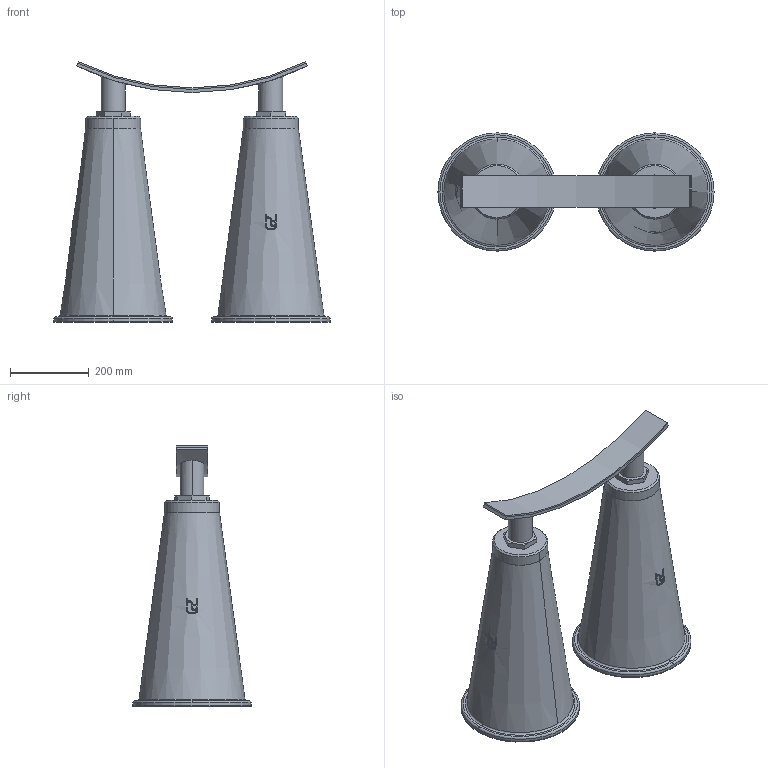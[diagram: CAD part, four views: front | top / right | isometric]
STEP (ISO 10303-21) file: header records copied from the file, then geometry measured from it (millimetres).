
FILE_DESCRIPTION(('STEP AP214'),'1');
FILE_NAME('RSRFC-DUO_DN1300.stp','2018-06-27T12:01:35',(' '),(' '),'Spatial InterOp 3D',' ',' ');
FILE_SCHEMA(('automotive_design'));
Length unit declared in the file: millimetre
Products named in the file (10): 1; 2; 3; 4; 5; 6; 7; 8; 9; 10
Bounding box: 700 x 300 x 661.19 mm (x, y, z)
Volume: 37848550.3 mm3; surface area: 1567296.1 mm2
Topology: 10 solids, 11 shells, 199 faces, 496 edges, 328 vertices
Faces by surface type: plane 82, cylinder 73, cone 36, torus 8
Entity records: 9395 total; most frequent: CARTESIAN_POINT 2877, ORIENTED_EDGE 992, DIRECTION 984, EDGE_CURVE 496, AXIS2_PLACEMENT_3D 383, VERTEX_POINT 328, LINE 218, VECTOR 218
